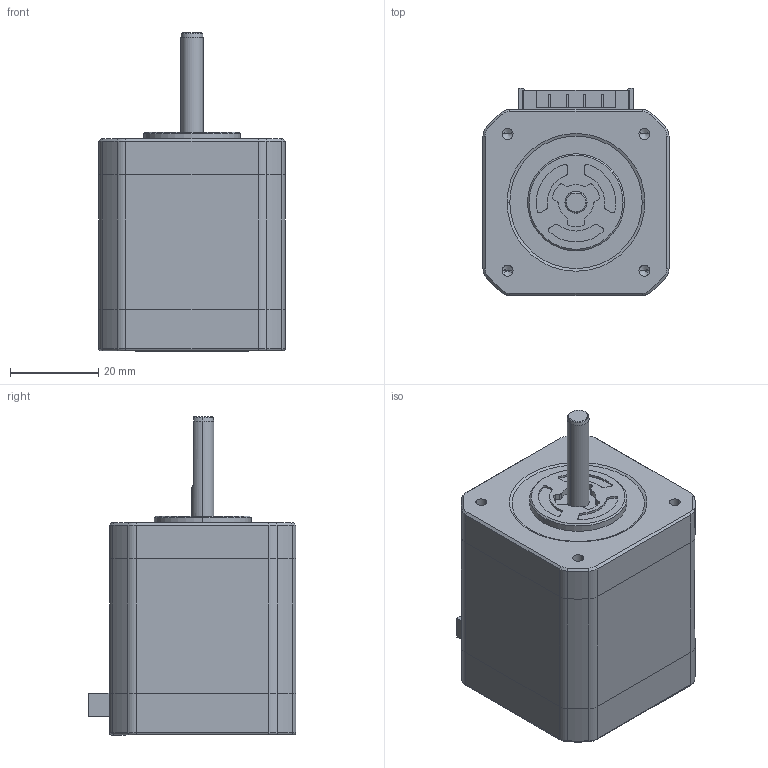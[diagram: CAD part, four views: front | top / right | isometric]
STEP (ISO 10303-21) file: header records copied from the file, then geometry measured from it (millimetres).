
FILE_DESCRIPTION (( 'STEP AP203' ), '1' );
FILE_NAME ('SF2423-10B41.STEP', '2019-08-08T09:55:44', ( 'sanyodenki-admin' ), ( '' ), 'SwSTEP 2.0', 'SolidWorks 2017', '' );
FILE_SCHEMA (( 'CONFIG_CONTROL_DESIGN' ));
Length unit declared in the file: millimetre
Products named in the file (1): SF2423-10B41
Bounding box: 42.15 x 46.98 x 72.1 mm (x, y, z)
Volume: 83259.3 mm3; surface area: 20650.8 mm2
Topology: 11 solids, 11 shells, 445 faces, 1120 edges, 710 vertices
Faces by surface type: plane 196, cylinder 181, cone 46, torus 14, bspline 8
Entity records: 13485 total; most frequent: CARTESIAN_POINT 2518, DIRECTION 2384, ORIENTED_EDGE 2212, EDGE_CURVE 1106, AXIS2_PLACEMENT_3D 858, VERTEX_POINT 710, LINE 668, VECTOR 668
